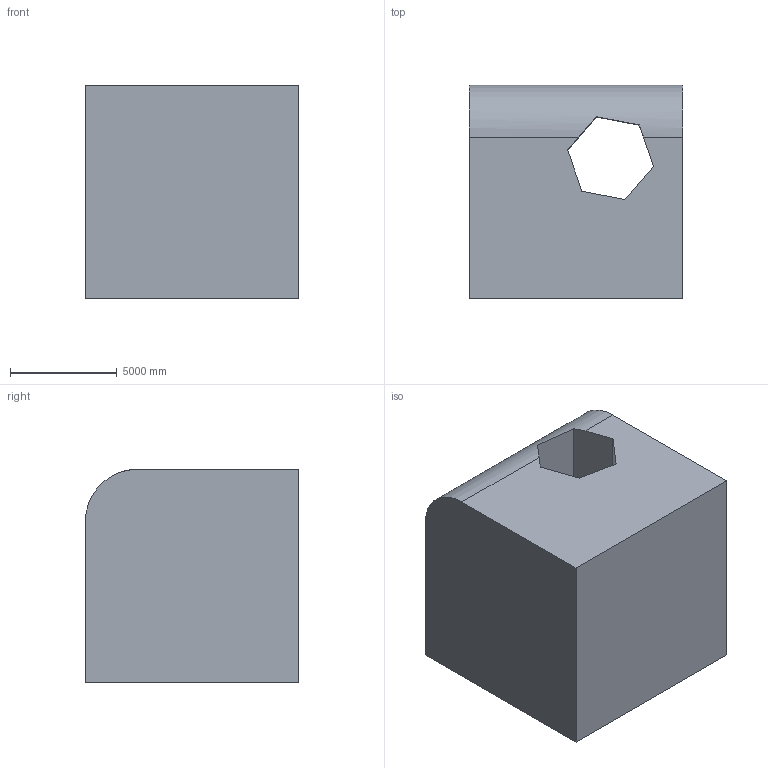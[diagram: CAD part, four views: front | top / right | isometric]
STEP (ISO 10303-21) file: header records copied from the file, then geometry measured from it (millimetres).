
FILE_DESCRIPTION (( 'STEP AP203' ), '1' );
FILE_NAME ('185.STEP', '2022-07-28T13:50:33', ( 'user' ), ( '' ), 'SwSTEP 2.0', 'SolidWorks 2021', '' );
FILE_SCHEMA (( 'CONFIG_CONTROL_DESIGN' ));
Length unit declared in the file: centimetre
Products named in the file (1): 185
Bounding box: 10000 x 10000 x 10000 mm (x, y, z)
Volume: 877789262575.3 mm3; surface area: 687933633.7 mm2
Topology: 1 solids, 1 shells, 13 faces, 36 edges, 24 vertices
Faces by surface type: plane 12, cylinder 1
Entity records: 493 total; most frequent: CARTESIAN_POINT 83, ORIENTED_EDGE 72, DIRECTION 63, EDGE_CURVE 36, VECTOR 31, LINE 31, VERTEX_POINT 24, AXIS2_PLACEMENT_3D 16
